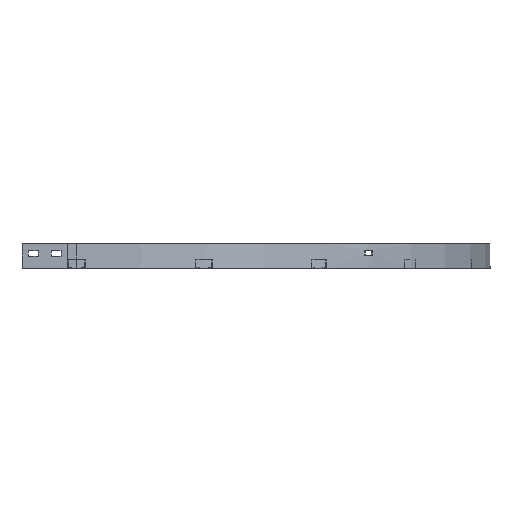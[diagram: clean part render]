
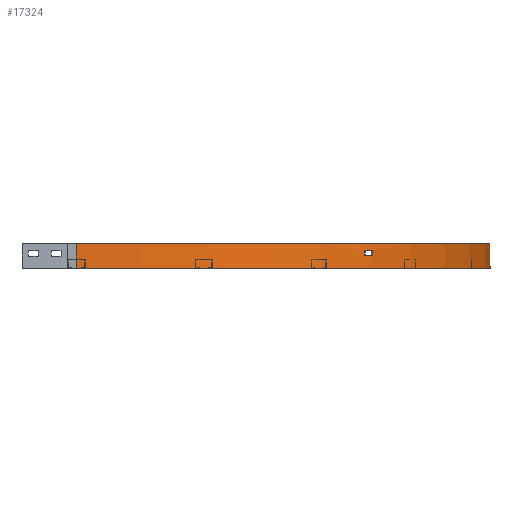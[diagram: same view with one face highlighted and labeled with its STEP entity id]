
A CAD part, front view. The second image highlights one B-rep face of the part: STEP entity #17324.
In plain terms, the highlighted cylindrical face has radius 911 mm (diameter 1822 mm), a partial arc.
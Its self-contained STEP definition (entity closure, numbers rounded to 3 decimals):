
#443=FACE_BOUND('',#2524,.T.);
#811=CYLINDRICAL_SURFACE('',#18239,911.);
#844=CIRCLE('',#18231,911.);
#849=CIRCLE('',#18238,911.);
#850=CIRCLE('',#18240,911.);
#851=CIRCLE('',#18241,911.);
#1634=FACE_OUTER_BOUND('',#2523,.T.);
#2523=EDGE_LOOP('',(#11720,#11721,#11722,#11723));
#2524=EDGE_LOOP('',(#11724,#11725,#11726,#11727));
#3779=LINE('',#24037,#5575);
#3785=LINE('',#24061,#5581);
#3786=LINE('',#24066,#5582);
#3787=LINE('',#24069,#5583);
#5575=VECTOR('',#19594,304.8);
#5581=VECTOR('',#19620,304.8);
#5582=VECTOR('',#19623,304.8);
#5583=VECTOR('',#19626,304.8);
#7368=VERTEX_POINT('',#24030);
#7371=VERTEX_POINT('',#24035);
#7372=VERTEX_POINT('',#24039);
#7379=VERTEX_POINT('',#24057);
#7380=VERTEX_POINT('',#24062);
#7381=VERTEX_POINT('',#24063);
#7382=VERTEX_POINT('',#24065);
#7383=VERTEX_POINT('',#24067);
#9099=EDGE_CURVE('',#7371,#7368,#3779,.T.);
#9100=EDGE_CURVE('',#7368,#7372,#844,.T.);
#9110=EDGE_CURVE('',#7379,#7371,#849,.T.);
#9111=EDGE_CURVE('',#7372,#7379,#3785,.T.);
#9112=EDGE_CURVE('',#7380,#7381,#850,.T.);
#9113=EDGE_CURVE('',#7381,#7382,#3786,.T.);
#9114=EDGE_CURVE('',#7382,#7383,#851,.T.);
#9115=EDGE_CURVE('',#7383,#7380,#3787,.T.);
#11720=ORIENTED_EDGE('',*,*,#9099,.F.);
#11721=ORIENTED_EDGE('',*,*,#9110,.F.);
#11722=ORIENTED_EDGE('',*,*,#9111,.F.);
#11723=ORIENTED_EDGE('',*,*,#9100,.F.);
#11724=ORIENTED_EDGE('',*,*,#9112,.T.);
#11725=ORIENTED_EDGE('',*,*,#9113,.T.);
#11726=ORIENTED_EDGE('',*,*,#9114,.T.);
#11727=ORIENTED_EDGE('',*,*,#9115,.T.);
#17324=ADVANCED_FACE('',(#1634,#443),#811,.T.);
#18231=AXIS2_PLACEMENT_3D('',#24040,#19597,#19598);
#18238=AXIS2_PLACEMENT_3D('',#24059,#19616,#19617);
#18239=AXIS2_PLACEMENT_3D('',#24060,#19618,#19619);
#18240=AXIS2_PLACEMENT_3D('',#24064,#19621,#19622);
#18241=AXIS2_PLACEMENT_3D('',#24068,#19624,#19625);
#19594=DIRECTION('',(0.,0.,1.));
#19597=DIRECTION('center_axis',(0.,0.,1.));
#19598=DIRECTION('ref_axis',(0.,-1.,0.));
#19616=DIRECTION('center_axis',(0.,0.,-1.));
#19617=DIRECTION('ref_axis',(0.,-1.,0.));
#19618=DIRECTION('center_axis',(0.,0.,1.));
#19619=DIRECTION('ref_axis',(0.,-1.,0.));
#19620=DIRECTION('',(0.,0.,-1.));
#19621=DIRECTION('center_axis',(0.,0.,1.));
#19622=DIRECTION('ref_axis',(0.,-1.,0.));
#19623=DIRECTION('',(0.,0.,-1.));
#19624=DIRECTION('center_axis',(0.,0.,-1.));
#19625=DIRECTION('ref_axis',(0.,-1.,0.));
#19626=DIRECTION('',(0.,0.,1.));
#24030=CARTESIAN_POINT('',(-605.5,-305.5,27.));
#24035=CARTESIAN_POINT('',(-605.5,-305.5,-27.));
#24037=CARTESIAN_POINT('',(-605.5,-305.5,-27.));
#24039=CARTESIAN_POINT('',(305.5,605.5,27.));
#24040=CARTESIAN_POINT('Origin',(-605.5,605.5,27.));
#24057=CARTESIAN_POINT('',(305.5,605.5,-27.));
#24059=CARTESIAN_POINT('Origin',(-605.5,605.5,-27.));
#24060=CARTESIAN_POINT('Origin',(-605.5,605.5,0.));
#24061=CARTESIAN_POINT('',(305.5,605.5,27.));
#24062=CARTESIAN_POINT('',(30.937,-46.32,12.5));
#24063=CARTESIAN_POINT('',(46.491,-30.761,12.5));
#24064=CARTESIAN_POINT('Origin',(-605.5,605.5,12.5));
#24065=CARTESIAN_POINT('',(46.491,-30.761,1.5));
#24066=CARTESIAN_POINT('',(46.491,-30.761,12.5));
#24067=CARTESIAN_POINT('',(30.937,-46.32,1.5));
#24068=CARTESIAN_POINT('Origin',(-605.5,605.5,1.5));
#24069=CARTESIAN_POINT('',(30.937,-46.32,1.5));
